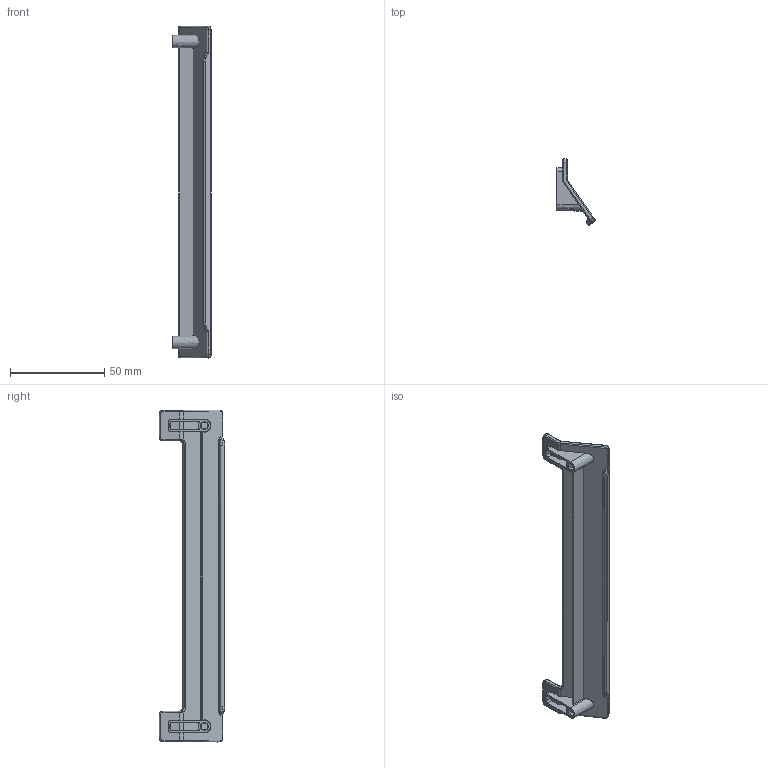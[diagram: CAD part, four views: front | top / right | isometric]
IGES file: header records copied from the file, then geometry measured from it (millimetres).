
Start section: C
Global section: file name: 8268-176.igs; native system: By Siemens PLM Incorporated; preprocessor: XPlus GENERIC/IGES 16.0.42; author: Author; organization: Title; date: 20210331.082621; units: millimetre
Bounding box: 20.3 x 34.99 x 176.56 mm (x, y, z)
Surface area: 14564.2 mm2 (no closed solid volume)
Topology: 0 solids, 0 shells, 169 faces, 834 edges, 834 vertices
Faces by surface type: bspline 169
